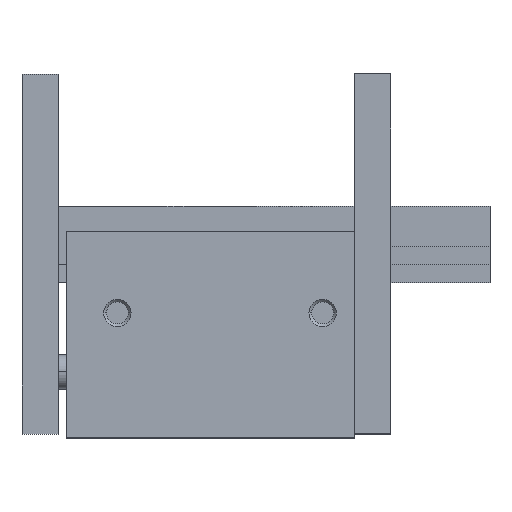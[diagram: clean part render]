
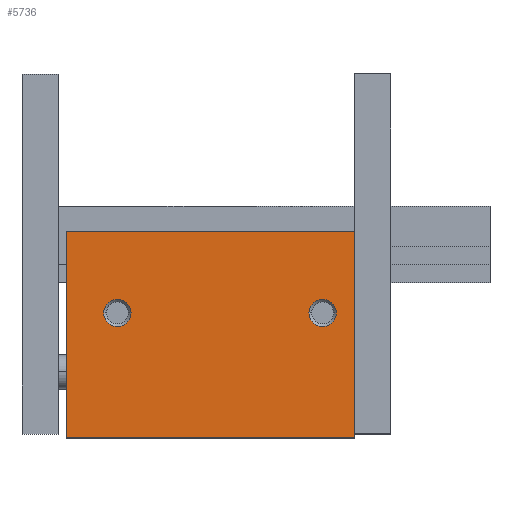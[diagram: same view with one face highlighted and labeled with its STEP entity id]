
A CAD part, top view. The second image highlights one B-rep face of the part: STEP entity #5736.
In plain terms, the highlighted planar face has unit normal (0, 0, 1) as drawn and (0, 0, -1) by its records, which use the part's own axes.
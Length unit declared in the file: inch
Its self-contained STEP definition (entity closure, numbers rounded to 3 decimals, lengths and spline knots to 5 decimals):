
#416 = LINE ( 'NONE', #1687, #3972 ) ;
#482 = CARTESIAN_POINT ( 'NONE',  ( 0.32, 0.153, -0.531 ) ) ;
#507 = EDGE_LOOP ( 'NONE', ( #4564, #3579, #828, #2017 ) ) ;
#568 = AXIS2_PLACEMENT_3D ( 'NONE', #3899, #8941, #4623 ) ;
#821 = VERTEX_POINT ( 'NONE', #3598 ) ;
#828 = ORIENTED_EDGE ( 'NONE', *, *, #4608, .F. ) ;
#1107 = DIRECTION ( 'NONE',  ( 0., 0., 1. ) ) ;
#1308 = CARTESIAN_POINT ( 'NONE',  ( 0.13, 0.153, -0.531 ) ) ;
#1312 = LINE ( 'NONE', #3422, #3206 ) ;
#1427 = CIRCLE ( 'NONE', #4851, 0.095 ) ;
#1514 = DIRECTION ( 'NONE',  ( -1., 0., 0. ) ) ;
#1602 = DIRECTION ( 'NONE',  ( 0., 0., 1. ) ) ;
#1640 = VECTOR ( 'NONE', #3201, 39.37008 ) ;
#1687 = CARTESIAN_POINT ( 'NONE',  ( 0., -0.715, -0.531 ) ) ;
#1765 = VERTEX_POINT ( 'NONE', #5237 ) ;
#1807 = CARTESIAN_POINT ( 'NONE',  ( 2., -0.715, -0.531 ) ) ;
#2017 = ORIENTED_EDGE ( 'NONE', *, *, #8931, .T. ) ;
#2061 = EDGE_CURVE ( 'NONE', #4443, #4375, #1427, .T. ) ;
#2143 = DIRECTION ( 'NONE',  ( 0., 0., 1. ) ) ;
#2163 = EDGE_LOOP ( 'NONE', ( #4964, #5038 ) ) ;
#2699 = CIRCLE ( 'NONE', #6367, 0.095 ) ;
#2745 = CARTESIAN_POINT ( 'NONE',  ( 0.225, 0.153, -0.531 ) ) ;
#2818 = EDGE_CURVE ( 'NONE', #4375, #4443, #8482, .T. ) ;
#2943 = CARTESIAN_POINT ( 'NONE',  ( 2., -0.715, -0.531 ) ) ;
#3201 = DIRECTION ( 'NONE',  ( 0., 1., 0. ) ) ;
#3206 = VECTOR ( 'NONE', #8432, 39.37008 ) ;
#3240 = DIRECTION ( 'NONE',  ( 1., 0., 0. ) ) ;
#3422 = CARTESIAN_POINT ( 'NONE',  ( 2., 0.715, -0.531 ) ) ;
#3460 = DIRECTION ( 'NONE',  ( 1., 0., 0. ) ) ;
#3579 = ORIENTED_EDGE ( 'NONE', *, *, #4439, .F. ) ;
#3598 = CARTESIAN_POINT ( 'NONE',  ( 0., 0.715, -0.531 ) ) ;
#3744 = FACE_BOUND ( 'NONE', #2163, .T. ) ;
#3757 = LINE ( 'NONE', #3919, #1640 ) ;
#3819 = VERTEX_POINT ( 'NONE', #7834 ) ;
#3899 = CARTESIAN_POINT ( 'NONE',  ( 1.65, 0.153, -0.531 ) ) ;
#3901 = AXIS2_PLACEMENT_3D ( 'NONE', #1807, #1107, #3240 ) ;
#3919 = CARTESIAN_POINT ( 'NONE',  ( 2., -0.715, -0.531 ) ) ;
#3972 = VECTOR ( 'NONE', #5264, 39.37008 ) ;
#4370 = VECTOR ( 'NONE', #1514, 39.37008 ) ;
#4375 = VERTEX_POINT ( 'NONE', #482 ) ;
#4439 = EDGE_CURVE ( 'NONE', #5108, #821, #1312, .T. ) ;
#4443 = VERTEX_POINT ( 'NONE', #1308 ) ;
#4564 = ORIENTED_EDGE ( 'NONE', *, *, #5640, .T. ) ;
#4604 = LINE ( 'NONE', #2943, #4370 ) ;
#4608 = EDGE_CURVE ( 'NONE', #1765, #5108, #3757, .T. ) ;
#4623 = DIRECTION ( 'NONE',  ( 1., 0., 0. ) ) ;
#4851 = AXIS2_PLACEMENT_3D ( 'NONE', #2745, #7764, #3460 ) ;
#4888 = CARTESIAN_POINT ( 'NONE',  ( 1.555, 0.153, -0.531 ) ) ;
#4964 = ORIENTED_EDGE ( 'NONE', *, *, #5685, .T. ) ;
#5038 = ORIENTED_EDGE ( 'NONE', *, *, #8989, .T. ) ;
#5108 = VERTEX_POINT ( 'NONE', #8138 ) ;
#5237 = CARTESIAN_POINT ( 'NONE',  ( 2., -0.715, -0.531 ) ) ;
#5264 = DIRECTION ( 'NONE',  ( 0., 1., 0. ) ) ;
#5640 = EDGE_CURVE ( 'NONE', #3819, #821, #416, .T. ) ;
#5685 = EDGE_CURVE ( 'NONE', #6817, #7604, #7581, .T. ) ;
#5736 = ADVANCED_FACE ( 'NONE', ( #7362, #7116, #3744 ), #7559, .F. ) ;
#5865 = CARTESIAN_POINT ( 'NONE',  ( 1.65, 0.153, -0.531 ) ) ;
#5966 = ORIENTED_EDGE ( 'NONE', *, *, #2061, .T. ) ;
#6367 = AXIS2_PLACEMENT_3D ( 'NONE', #5865, #1602, #6607 ) ;
#6419 = CARTESIAN_POINT ( 'NONE',  ( 0.225, 0.153, -0.531 ) ) ;
#6607 = DIRECTION ( 'NONE',  ( 1., 0., 0. ) ) ;
#6817 = VERTEX_POINT ( 'NONE', #4888 ) ;
#6841 = AXIS2_PLACEMENT_3D ( 'NONE', #6419, #2143, #7159 ) ;
#7116 = FACE_OUTER_BOUND ( 'NONE', #507, .T. ) ;
#7159 = DIRECTION ( 'NONE',  ( 1., 0., 0. ) ) ;
#7362 = FACE_BOUND ( 'NONE', #7940, .T. ) ;
#7559 = PLANE ( 'NONE',  #3901 ) ;
#7581 = CIRCLE ( 'NONE', #568, 0.095 ) ;
#7604 = VERTEX_POINT ( 'NONE', #8117 ) ;
#7764 = DIRECTION ( 'NONE',  ( 0., 0., 1. ) ) ;
#7834 = CARTESIAN_POINT ( 'NONE',  ( 0., -0.715, -0.531 ) ) ;
#7940 = EDGE_LOOP ( 'NONE', ( #5966, #8635 ) ) ;
#8117 = CARTESIAN_POINT ( 'NONE',  ( 1.745, 0.153, -0.531 ) ) ;
#8138 = CARTESIAN_POINT ( 'NONE',  ( 2., 0.715, -0.531 ) ) ;
#8432 = DIRECTION ( 'NONE',  ( -1., 0., 0. ) ) ;
#8482 = CIRCLE ( 'NONE', #6841, 0.095 ) ;
#8635 = ORIENTED_EDGE ( 'NONE', *, *, #2818, .T. ) ;
#8931 = EDGE_CURVE ( 'NONE', #1765, #3819, #4604, .T. ) ;
#8941 = DIRECTION ( 'NONE',  ( 0., 0., 1. ) ) ;
#8989 = EDGE_CURVE ( 'NONE', #7604, #6817, #2699, .T. ) ;
